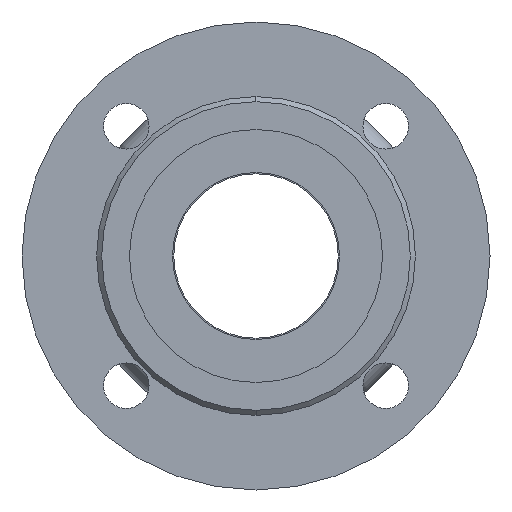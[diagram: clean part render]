
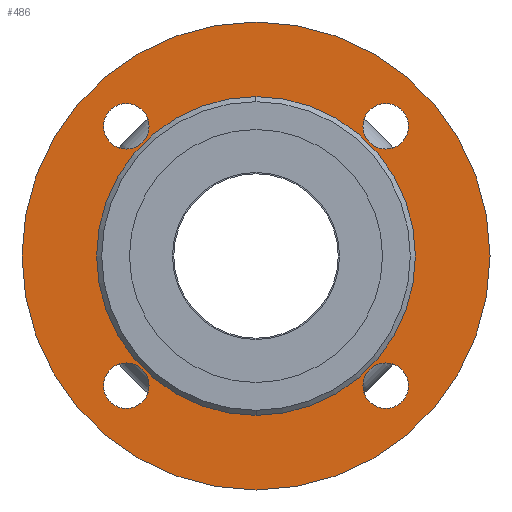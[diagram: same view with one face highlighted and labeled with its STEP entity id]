
A CAD part, left-side view. The second image highlights one B-rep face of the part: STEP entity #486.
In plain terms, the highlighted planar face has unit normal (-1, 0, 0).
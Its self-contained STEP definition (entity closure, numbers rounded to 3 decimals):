
#486=ADVANCED_FACE('',(#916,#917,#918,#919,#920,#921),#922,.F.);
#916=FACE_BOUND('',#1397,.T.);
#917=FACE_BOUND('',#1398,.T.);
#918=FACE_BOUND('',#1399,.T.);
#919=FACE_BOUND('',#1400,.T.);
#920=FACE_BOUND('',#1401,.T.);
#921=FACE_OUTER_BOUND('',#1402,.T.);
#922=PLANE('',#1403);
#1397=EDGE_LOOP('',(#2232,#2233));
#1398=EDGE_LOOP('',(#2234,#2235));
#1399=EDGE_LOOP('',(#2236,#2237));
#1400=EDGE_LOOP('',(#2238,#2239));
#1401=EDGE_LOOP('',(#2240,#2241));
#1402=EDGE_LOOP('',(#2242,#2243));
#1403=AXIS2_PLACEMENT_3D('',#2244,#2245,#2246);
#2232=ORIENTED_EDGE('',*,*,#2849,.T.);
#2233=ORIENTED_EDGE('',*,*,#2627,.T.);
#2234=ORIENTED_EDGE('',*,*,#2536,.T.);
#2235=ORIENTED_EDGE('',*,*,#2661,.T.);
#2236=ORIENTED_EDGE('',*,*,#2760,.T.);
#2237=ORIENTED_EDGE('',*,*,#2810,.T.);
#2238=ORIENTED_EDGE('',*,*,#2659,.T.);
#2239=ORIENTED_EDGE('',*,*,#2850,.T.);
#2240=ORIENTED_EDGE('',*,*,#2794,.T.);
#2241=ORIENTED_EDGE('',*,*,#2839,.T.);
#2242=ORIENTED_EDGE('',*,*,#2561,.F.);
#2243=ORIENTED_EDGE('',*,*,#2851,.F.);
#2244=CARTESIAN_POINT('',(5.0,0.0,0.));
#2245=DIRECTION('',(1.0,0.0,0.));
#2246=DIRECTION('',(0.,0.0,-1.0));
#2536=EDGE_CURVE('',#2939,#2943,#2945,.T.);
#2561=EDGE_CURVE('',#2983,#2986,#2987,.T.);
#2627=EDGE_CURVE('',#3099,#3097,#3100,.T.);
#2659=EDGE_CURVE('',#3138,#3140,#3142,.T.);
#2661=EDGE_CURVE('',#2943,#2939,#3144,.T.);
#2760=EDGE_CURVE('',#3288,#3290,#3292,.T.);
#2794=EDGE_CURVE('',#3335,#3337,#3339,.T.);
#2810=EDGE_CURVE('',#3290,#3288,#3355,.T.);
#2839=EDGE_CURVE('',#3337,#3335,#3397,.T.);
#2849=EDGE_CURVE('',#3097,#3099,#3407,.T.);
#2850=EDGE_CURVE('',#3140,#3138,#3408,.T.);
#2851=EDGE_CURVE('',#2986,#2983,#3409,.T.);
#2939=VERTEX_POINT('',#3502);
#2943=VERTEX_POINT('',#3507);
#2945=CIRCLE('',#3510,9.0);
#2983=VERTEX_POINT('',#3559);
#2986=VERTEX_POINT('',#3563);
#2987=CIRCLE('',#3564,92.5);
#3097=VERTEX_POINT('',#3696);
#3099=VERTEX_POINT('',#3699);
#3100=CIRCLE('',#3700,32.5);
#3138=VERTEX_POINT('',#3744);
#3140=VERTEX_POINT('',#3747);
#3142=CIRCLE('',#3750,9.0);
#3144=CIRCLE('',#3752,9.0);
#3288=VERTEX_POINT('',#3925);
#3290=VERTEX_POINT('',#3928);
#3292=CIRCLE('',#3931,9.0);
#3335=VERTEX_POINT('',#3981);
#3337=VERTEX_POINT('',#3984);
#3339=CIRCLE('',#3987,9.0);
#3355=CIRCLE('',#4005,9.0);
#3397=CIRCLE('',#4050,9.0);
#3407=CIRCLE('',#4062,32.5);
#3408=CIRCLE('',#4063,9.0);
#3409=CIRCLE('',#4064,92.5);
#3502=CARTESIAN_POINT('',(5.0,51.265,-60.265));
#3507=CARTESIAN_POINT('',(5.0,51.265,-42.265));
#3510=AXIS2_PLACEMENT_3D('',#4168,#4169,#4170);
#3559=CARTESIAN_POINT('',(5.,0.0,-92.5));
#3563=CARTESIAN_POINT('',(5.,0.,92.5));
#3564=AXIS2_PLACEMENT_3D('',#4198,#4199,#4200);
#3696=CARTESIAN_POINT('',(5.0,0.0,-32.5));
#3699=CARTESIAN_POINT('',(5.0,0.,32.5));
#3700=AXIS2_PLACEMENT_3D('',#4314,#4315,#4316);
#3744=CARTESIAN_POINT('',(5.0,-51.265,42.265));
#3747=CARTESIAN_POINT('',(5.,-51.265,60.265));
#3750=AXIS2_PLACEMENT_3D('',#4364,#4365,#4366);
#3752=AXIS2_PLACEMENT_3D('',#4367,#4368,#4369);
#3925=CARTESIAN_POINT('',(5.0,51.265,42.265));
#3928=CARTESIAN_POINT('',(5.,51.265,60.265));
#3931=AXIS2_PLACEMENT_3D('',#4515,#4516,#4517);
#3981=CARTESIAN_POINT('',(5.0,-51.265,-60.265));
#3984=CARTESIAN_POINT('',(5.0,-51.265,-42.265));
#3987=AXIS2_PLACEMENT_3D('',#4566,#4567,#4568);
#4005=AXIS2_PLACEMENT_3D('',#4583,#4584,#4585);
#4050=AXIS2_PLACEMENT_3D('',#4640,#4641,#4642);
#4062=AXIS2_PLACEMENT_3D('',#4651,#4652,#4653);
#4063=AXIS2_PLACEMENT_3D('',#4654,#4655,#4656);
#4064=AXIS2_PLACEMENT_3D('',#4657,#4658,#4659);
#4168=CARTESIAN_POINT('',(5.0,51.265,-51.265));
#4169=DIRECTION('',(1.0,0.0,0.));
#4170=DIRECTION('',(0.,0.0,-1.0));
#4198=CARTESIAN_POINT('',(5.0,0.0,0.));
#4199=DIRECTION('',(1.0,0.0,0.));
#4200=DIRECTION('',(0.,0.0,-1.0));
#4314=CARTESIAN_POINT('',(5.0,0.0,0.));
#4315=DIRECTION('',(1.0,0.0,0.));
#4316=DIRECTION('',(0.,0.0,-1.0));
#4364=CARTESIAN_POINT('',(5.0,-51.265,51.265));
#4365=DIRECTION('',(1.0,0.0,0.));
#4366=DIRECTION('',(0.,0.0,-1.0));
#4367=CARTESIAN_POINT('',(5.0,51.265,-51.265));
#4368=DIRECTION('',(1.0,0.0,0.));
#4369=DIRECTION('',(0.,0.0,-1.0));
#4515=CARTESIAN_POINT('',(5.0,51.265,51.265));
#4516=DIRECTION('',(1.0,0.0,0.));
#4517=DIRECTION('',(0.,0.0,-1.0));
#4566=CARTESIAN_POINT('',(5.0,-51.265,-51.265));
#4567=DIRECTION('',(1.0,0.0,0.));
#4568=DIRECTION('',(0.,0.0,-1.0));
#4583=CARTESIAN_POINT('',(5.0,51.265,51.265));
#4584=DIRECTION('',(1.0,0.0,0.));
#4585=DIRECTION('',(0.,0.0,-1.0));
#4640=CARTESIAN_POINT('',(5.0,-51.265,-51.265));
#4641=DIRECTION('',(1.0,0.0,0.));
#4642=DIRECTION('',(0.,0.0,-1.0));
#4651=CARTESIAN_POINT('',(5.0,0.0,0.));
#4652=DIRECTION('',(1.0,0.0,0.));
#4653=DIRECTION('',(0.,0.0,-1.0));
#4654=CARTESIAN_POINT('',(5.0,-51.265,51.265));
#4655=DIRECTION('',(1.0,0.0,0.));
#4656=DIRECTION('',(0.,0.0,-1.0));
#4657=CARTESIAN_POINT('',(5.0,0.0,0.));
#4658=DIRECTION('',(1.0,0.0,0.));
#4659=DIRECTION('',(0.,0.0,-1.0));
